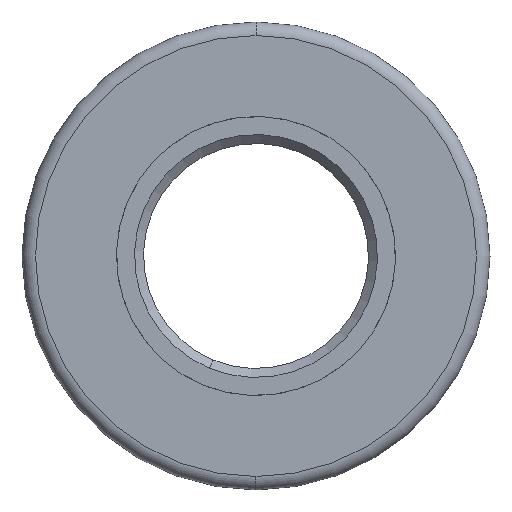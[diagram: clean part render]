
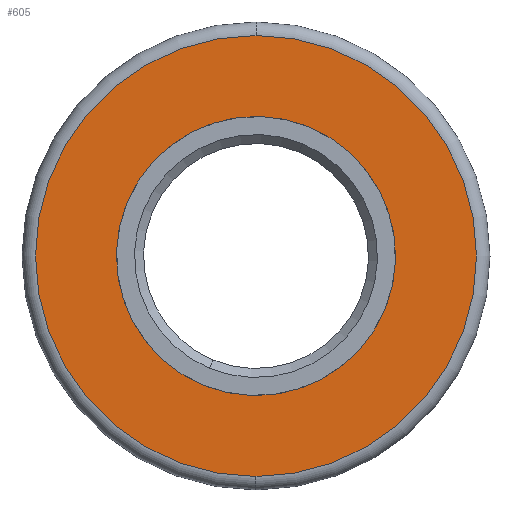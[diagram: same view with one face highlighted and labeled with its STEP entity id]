
A CAD part, left-side view. The second image highlights one B-rep face of the part: STEP entity #605.
In plain terms, the highlighted planar face has unit normal (-1, 0, 0).
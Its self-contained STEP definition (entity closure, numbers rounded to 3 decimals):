
#2 = CARTESIAN_POINT ( 'NONE',  ( -7.648, -0.687, 52. ) ) ;
#4 = CIRCLE ( 'NONE', #353, 24.5 ) ;
#11 = EDGE_LOOP ( 'NONE', ( #285, #99 ) ) ;
#31 = DIRECTION ( 'NONE',  ( -1., 0., 0. ) ) ;
#44 = AXIS2_PLACEMENT_3D ( 'NONE', #300, #594, #256 ) ;
#51 = CIRCLE ( 'NONE', #44, 15.5 ) ;
#70 = CARTESIAN_POINT ( 'NONE',  ( -7.648, -0.687, 76.5 ) ) ;
#99 = ORIENTED_EDGE ( 'NONE', *, *, #393, .F. ) ;
#101 = DIRECTION ( 'NONE',  ( 0., 0., 1. ) ) ;
#125 = CARTESIAN_POINT ( 'NONE',  ( -7.648, 14.813, 52. ) ) ;
#134 = EDGE_LOOP ( 'NONE', ( #487, #500 ) ) ;
#161 = VERTEX_POINT ( 'NONE', #552 ) ;
#167 = PLANE ( 'NONE',  #239 ) ;
#172 = EDGE_CURVE ( 'NONE', #382, #562, #51, .T. ) ;
#232 = CARTESIAN_POINT ( 'NONE',  ( -7.648, -0.687, 67.5 ) ) ;
#239 = AXIS2_PLACEMENT_3D ( 'NONE', #125, #504, #489 ) ;
#256 = DIRECTION ( 'NONE',  ( 0., 0., 1. ) ) ;
#260 = CIRCLE ( 'NONE', #503, 24.5 ) ;
#268 = EDGE_CURVE ( 'NONE', #161, #516, #4, .T. ) ;
#282 = CARTESIAN_POINT ( 'NONE',  ( -7.648, -0.687, 52. ) ) ;
#285 = ORIENTED_EDGE ( 'NONE', *, *, #172, .F. ) ;
#300 = CARTESIAN_POINT ( 'NONE',  ( -7.648, -0.687, 52. ) ) ;
#305 = CARTESIAN_POINT ( 'NONE',  ( -7.648, -0.687, 52. ) ) ;
#322 = AXIS2_PLACEMENT_3D ( 'NONE', #282, #331, #101 ) ;
#329 = DIRECTION ( 'NONE',  ( -1., 0., 0. ) ) ;
#331 = DIRECTION ( 'NONE',  ( -1., 0., 0. ) ) ;
#353 = AXIS2_PLACEMENT_3D ( 'NONE', #2, #329, #572 ) ;
#358 = DIRECTION ( 'NONE',  ( 0., 0., 1. ) ) ;
#370 = FACE_OUTER_BOUND ( 'NONE', #134, .T. ) ;
#382 = VERTEX_POINT ( 'NONE', #232 ) ;
#393 = EDGE_CURVE ( 'NONE', #562, #382, #481, .T. ) ;
#481 = CIRCLE ( 'NONE', #322, 15.5 ) ;
#487 = ORIENTED_EDGE ( 'NONE', *, *, #588, .T. ) ;
#488 = FACE_BOUND ( 'NONE', #11, .T. ) ;
#489 = DIRECTION ( 'NONE',  ( 0., 0., 1. ) ) ;
#500 = ORIENTED_EDGE ( 'NONE', *, *, #268, .T. ) ;
#503 = AXIS2_PLACEMENT_3D ( 'NONE', #305, #31, #358 ) ;
#504 = DIRECTION ( 'NONE',  ( -1., 0., 0. ) ) ;
#516 = VERTEX_POINT ( 'NONE', #70 ) ;
#551 = CARTESIAN_POINT ( 'NONE',  ( -7.648, -0.687, 36.5 ) ) ;
#552 = CARTESIAN_POINT ( 'NONE',  ( -7.648, -0.687, 27.5 ) ) ;
#562 = VERTEX_POINT ( 'NONE', #551 ) ;
#572 = DIRECTION ( 'NONE',  ( 0., 0., 1. ) ) ;
#588 = EDGE_CURVE ( 'NONE', #516, #161, #260, .T. ) ;
#594 = DIRECTION ( 'NONE',  ( -1., 0., 0. ) ) ;
#605 = ADVANCED_FACE ( 'NONE', ( #370, #488 ), #167, .T. ) ;
